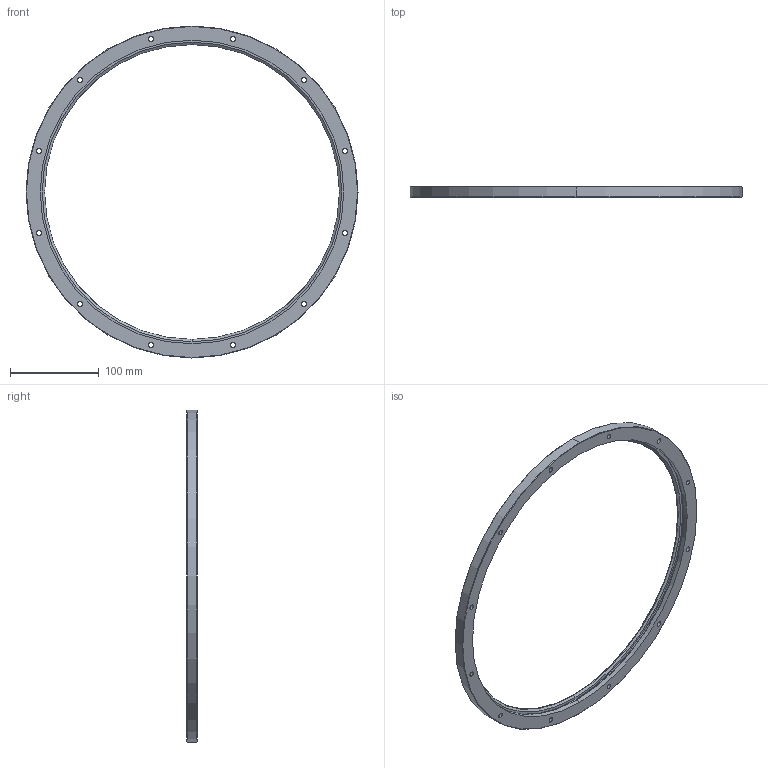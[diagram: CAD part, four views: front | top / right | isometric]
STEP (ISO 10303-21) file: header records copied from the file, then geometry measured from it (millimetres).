
FILE_DESCRIPTION(('STEP AP203'),'1');
FILE_NAME('ris_374_r360.stp','2020-12-09T15:25:43',('TraceParts'),('TraceParts S.A.'),'Spatial InterOp 3D',' ',' ');
FILE_SCHEMA(('CONFIG_CONTROL_DESIGN'));
Length unit declared in the file: millimetre
Products named in the file (1): 1
Bounding box: 374 x 12.25 x 374 mm (x, y, z)
Volume: 229822 mm3; surface area: 74449.1 mm2
Topology: 1 solids, 1 shells, 82 faces, 188 edges, 122 vertices
Faces by surface type: cylinder 54, plane 16, cone 8, torus 4
Entity records: 2474 total; most frequent: DIRECTION 480, CARTESIAN_POINT 393, ORIENTED_EDGE 376, AXIS2_PLACEMENT_3D 209, EDGE_CURVE 188, CIRCLE 126, EDGE_LOOP 122, VERTEX_POINT 122
